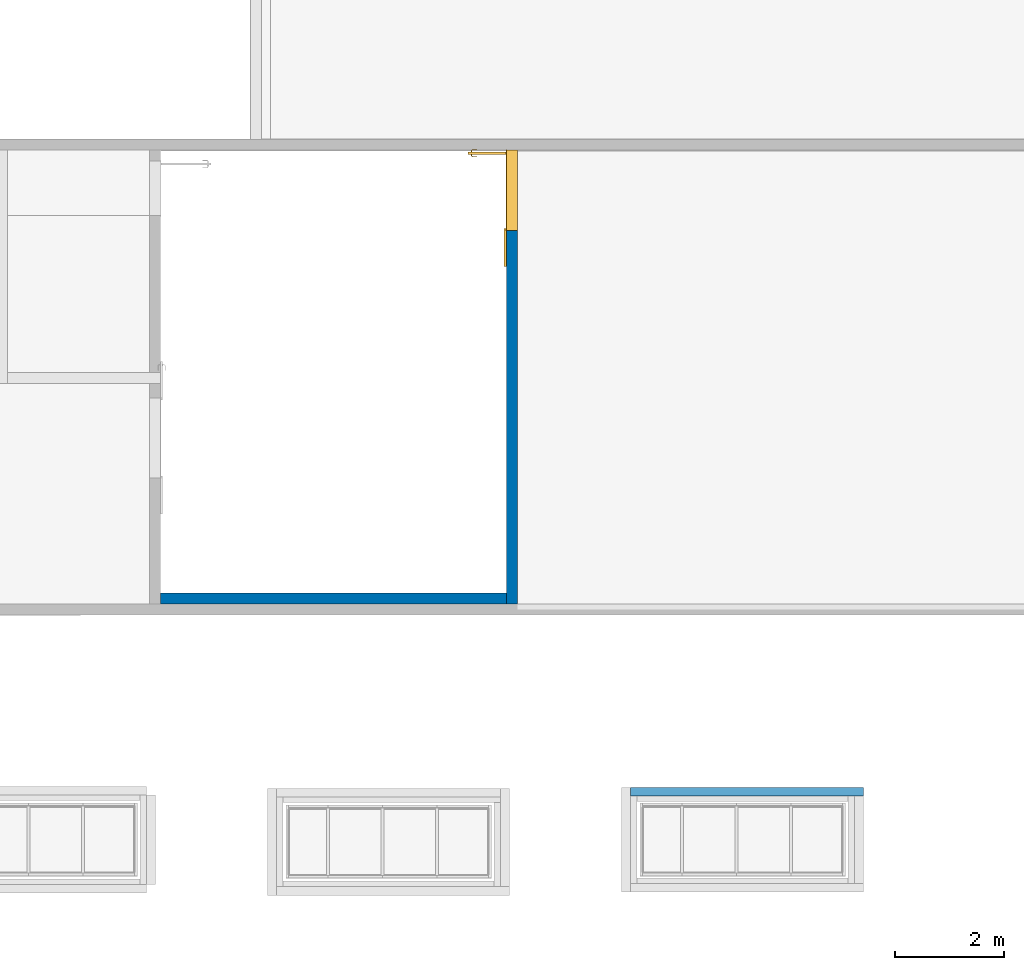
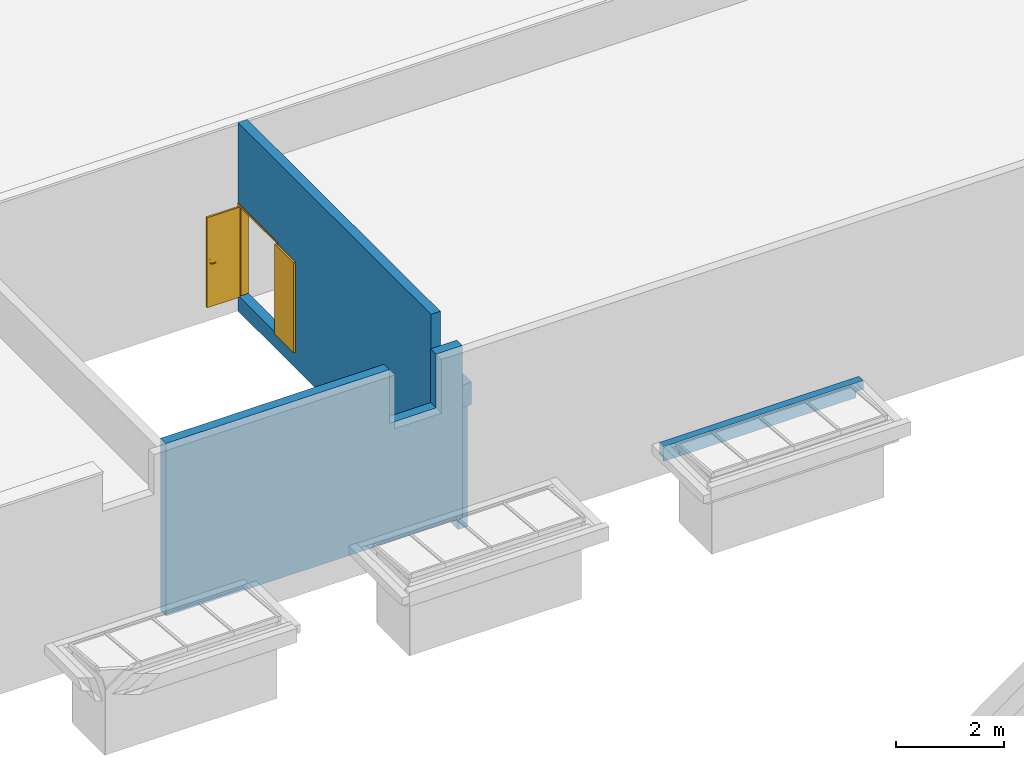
# One storey, part 91 of 106: 3 walls, 1 door, 1 opening.
"""IFC2X3 building model written with IfcOpenShell, lengths in centimetres."""

from ifc_helpers import new_model, entity, si_unit, converted_unit, derived_unit, direction, frame, frame_2d, origin, place, context, subcontext, project, spatial, rectangle, extrude, faceted_brep, source, transform, mapped, material, material_list, layer, layer_set, type_object, type_shapes, element, fill, save


model = new_model("IFC2X3")

# Units and contexts
model_context = context("Model", 3, precision=0.001, world=origin(), true_north=direction((6.12303176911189e-17, 1.0)))
body_context = subcontext(model_context, "Body", "Model", "MODEL_VIEW")
ifc_project = project(units=[si_unit("LENGTHUNIT", "METRE", prefix="CENTI"), si_unit("AREAUNIT", "SQUARE_METRE"), si_unit("VOLUMEUNIT", "CUBIC_METRE"), converted_unit("PLANEANGLEUNIT", "DEGREE", entity("IfcRatioMeasure", 0.0174532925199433), si_unit("PLANEANGLEUNIT", "RADIAN"), dimensions=[0, 0, 0, 0, 0, 0, 0]), si_unit("MASSUNIT", "GRAM", prefix="KILO"), derived_unit("MASSDENSITYUNIT", [(si_unit("MASSUNIT", "GRAM", prefix="KILO"), 1), (si_unit("LENGTHUNIT", "METRE"), -3)]), si_unit("TIMEUNIT", "SECOND"), si_unit("FREQUENCYUNIT", "HERTZ"), si_unit("THERMODYNAMICTEMPERATUREUNIT", "DEGREE_CELSIUS"), derived_unit("THERMALTRANSMITTANCEUNIT", [(si_unit("MASSUNIT", "GRAM", prefix="KILO"), 1), (si_unit("THERMODYNAMICTEMPERATUREUNIT", "KELVIN"), -1), (si_unit("TIMEUNIT", "SECOND"), -3)]), derived_unit("VOLUMETRICFLOWRATEUNIT", [(si_unit("LENGTHUNIT", "METRE"), 3), (si_unit("TIMEUNIT", "SECOND"), -1)]), si_unit("ELECTRICCURRENTUNIT", "AMPERE"), si_unit("ELECTRICVOLTAGEUNIT", "VOLT"), si_unit("POWERUNIT", "WATT"), si_unit("FORCEUNIT", "NEWTON", prefix="KILO"), si_unit("ILLUMINANCEUNIT", "LUX"), si_unit("LUMINOUSFLUXUNIT", "LUMEN"), si_unit("LUMINOUSINTENSITYUNIT", "CANDELA"), derived_unit("USERDEFINED", [(si_unit("MASSUNIT", "GRAM", prefix="KILO"), -1), (si_unit("LENGTHUNIT", "METRE"), -2), (si_unit("TIMEUNIT", "SECOND"), 3), (si_unit("LUMINOUSFLUXUNIT", "LUMEN"), 1)]), derived_unit("LINEARVELOCITYUNIT", [(si_unit("LENGTHUNIT", "METRE"), 1), (si_unit("TIMEUNIT", "SECOND"), -1)]), si_unit("PRESSUREUNIT", "PASCAL"), derived_unit("USERDEFINED", [(si_unit("LENGTHUNIT", "METRE"), -2), (si_unit("MASSUNIT", "GRAM", prefix="KILO"), 1), (si_unit("TIMEUNIT", "SECOND"), -2)])], contexts=[model_context])

# Site, building, storey
site_placement = place(None, frame((-2781.94577612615, 7442.24238424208, 0.0)))
site = spatial("IfcSite", under=ifc_project, at=site_placement, Name="Default", CompositionType="ELEMENT")
building_placement = place(site_placement, origin())
building = spatial("IfcBuilding", under=site, at=building_placement, CompositionType="ELEMENT")
storey_placement = place(building_placement, frame((0.0, 0.0, 422.0)))
storey = spatial("IfcBuildingStorey", under=building, at=storey_placement, Name="Toiture - Cuisine", CompositionType="ELEMENT", Elevation=421.999999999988)

# Wall
ifc_material_1 = material(Name="Aluminium bardage")
ifc_layer_1 = layer(ifc_material_1, 0.5)
ifc_material_2 = material(Name="01 - Lame d'air")
ifc_layer_2 = layer(ifc_material_2, 1.5)
ifc_material_3 = material(Name="00 - Isolant")
ifc_layer_3 = layer(ifc_material_3, 18.0)
ifc_layer_set_1 = layer_set([ifc_layer_1, ifc_layer_2, ifc_layer_3], Name="Mur de base:04 - Parement - ITE 18cm + vide 2cm")
wall_type_1 = type_object("IfcWallType", Name="Mur de base:04 - Parement - ITE 18cm + vide 2cm", PredefinedType="STANDARD", material=ifc_layer_set_1)
wall_1_placement = place(building_placement, frame((-11066.882807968, -4195.50027342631, 349.0)))
element("IfcWall", 1, at=wall_1_placement, inside=storey, type_object=wall_type_1, Name="Mur de base:04 - Parement - ITE 18cm + vide 2cm", ObjectType="Mur de base:04 - Parement - ITE 18cm + vide 2cm", context=body_context, shape_type="Brep", body=[
    faceted_brep([(634.91806986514, -10.0, 0.0), (634.91806986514, -10.0, 250.0), (634.91806986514, -10.0, 300.996428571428), (634.91806986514, -10.0, 391.0), (578.558069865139, -10.0, 391.0), (578.558069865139, -10.0, 269.220000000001), (478.55806986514, -10.0, 269.220000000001), (478.55806986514, -10.0, 391.0), (0.0, -10.0, 391.0), (0.0, -10.0, 0.0), (634.91806986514, 10.0, 0.0), (0.0, 10.0, 0.0), (0.0, 10.0, 391.0), (478.558069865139, 10.0, 391.0), (478.558069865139, 10.0, 269.220000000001), (578.558069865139, 10.0, 269.220000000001), (578.558069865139, 10.0, 391.0), (634.91806986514, 10.0, 391.0)], [[[0, 1, 2, 3, 4, 5, 6, 7, 8, 9]], [[10, 11, 12, 13, 14, 15, 16, 17]], [[0, 9, 11, 10]], [[4, 3, 17, 16]], [[5, 4, 16, 15]], [[6, 5, 15, 14]], [[7, 6, 14, 13]], [[8, 7, 13, 12]], [[3, 2, 1, 0, 10, 17]], [[9, 8, 12, 11]]]),
])

# Wall, opening, door
ifc_material_4 = material(Name="01 - Maçonnerie")
ifc_layer_4 = layer(ifc_material_4, 20.0)
ifc_layer_set_2 = layer_set([ifc_layer_4], Name="Mur de base:04 - Structure - béton - 20cm")
wall_type_2 = type_object("IfcWallType", Name="Mur de base:04 - Structure - béton - 20cm", PredefinedType="STANDARD", material=ifc_layer_set_2)
wall_2_placement = place(building_placement, frame((-10421.9647381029, -4205.50027342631, 313.0), z_axis=(0.0, 0.0, 1.0), x_axis=(0.0, 1.0, 0.0)))
wall_2 = element("IfcWall", 2, at=wall_2_placement, inside=storey, type_object=wall_type_2, Name="Mur de base:04 - Structure - béton - 20cm", ObjectType="Mur de base:04 - Structure - béton - 20cm", context=body_context, shape_type="Brep", body=[
    faceted_brep([(16.0, -10.0, 0.0), (832.978466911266, -10.0, 0.0), (832.978466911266, -10.0, 21.0), (832.978466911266, -10.0, 36.0), (685.978466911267, -10.0, 36.0), (685.978466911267, -10.0, 243.499999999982), (832.978466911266, -10.0, 243.499999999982), (832.978466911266, -10.0, 286.0), (832.978466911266, -10.0, 322.0), (832.978466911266, -10.0, 427.0), (116.0, -10.0, 427.0), (116.0, -10.0, 336.996428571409), (0.0, -10.0, 336.996428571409), (0.0, -10.0, 286.0), (16.0, -10.0, 286.0), (16.0, -10.0, 21.0), (832.978466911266, 10.0, 0.0), (16.0, 10.0, 0.0), (16.0, 10.0, 20.8628346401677), (16.0, 10.0, 286.0), (0.0, 10.0, 286.0), (0.0, 10.0, 336.996428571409), (116.0, 10.0, 336.996428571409), (116.0, 10.0, 427.0), (832.978466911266, 10.0, 427.0), (832.978466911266, 10.0, 243.499999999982), (685.978466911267, 10.0, 243.499999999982), (685.978466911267, 10.0, 36.0), (832.978466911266, 10.0, 36.0)], [[[0, 1, 2, 3, 4, 5, 6, 7, 8, 9, 10, 11, 12, 13, 14, 15]], [[16, 17, 18, 19, 20, 21, 22, 23, 24, 25, 26, 27, 28]], [[24, 9, 8, 7, 6, 25]], [[1, 0, 17, 16]], [[10, 9, 24, 23]], [[11, 10, 23, 22]], [[12, 11, 22, 21]], [[5, 26, 25, 6]], [[26, 5, 4, 27]], [[27, 4, 3, 28]], [[20, 19, 14, 13]], [[17, 0, 15, 14, 19, 18]], [[12, 21, 20, 13]], [[1, 16, 28, 3, 2]]]),
])
opening_placement = place(wall_2_placement, frame((685.978466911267, -10.0, 36.0)))
opening = element("IfcOpeningElement", 3, at=opening_placement, cuts=wall_2, Name="Int. Double:PP (1.40m x 2.04m):1", ObjectType="Opening", context=body_context, shape_type="SweptSolid", body=[
    extrude(rectangle(XDim=207.500000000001, YDim=147.0, at=frame_2d((103.750000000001, 73.5000000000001), x_axis=(1.0, 0.0))), frame((0.0, 0.0, 0.0), z_axis=(0.0, 1.0, 0.0), x_axis=(0.0, 0.0, 1.0)), (0.0, 0.0, 1.0), 20.0),
])
ifc_material_5 = material(Name="Bois - Panneau de porte")
ifc_material_6 = material(Name="Finition Peinture - Blanc satiné")
ifc_material_7 = material(Name="Bois - Cadre de porte")
ifc_material_list_1 = material_list([ifc_material_5, ifc_material_6, ifc_material_7])
ifc_material_list_2 = material_list([ifc_material_5, ifc_material_6, ifc_material_7])
door_style = type_object("IfcDoorStyle", Name="PP (1.40m x 2.04m)", ConstructionType="NOTDEFINED", OperationType="DOUBLE_DOOR_SINGLE_SWING", ParameterTakesPrecedence=False, Sizeable=False, material=ifc_material_list_2)
shared_shape = source(origin(), body_context, "Body", "Brep", [
    faceted_brep([(220.500000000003, -4.0, 204.0), (150.500000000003, -4.0, 204.0), (150.500000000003, -4.0, 0.0), (220.500000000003, -4.0, 0.0), (220.500000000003, 0.0, 204.0), (220.500000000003, 0.0, 0.0), (150.500000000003, 0.0, 0.0), (150.500000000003, 0.0, 204.0)], [[[0, 1, 2, 3]], [[4, 5, 6, 7]], [[1, 0, 4, 7]], [[2, 1, 7, 6]], [[3, 2, 6, 5]], [[0, 3, 5, 4]]]),
    faceted_brep([(10.0, -66.0, 87.0), (10.0, -66.0, 108.0), (10.0, -65.0352761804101, 108.399601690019), (10.0, -64.0, 108.535898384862), (10.0, -62.9647238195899, 108.399601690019), (10.0, -62.0, 108.0), (10.0, -62.0, 87.0), (10.0, -62.9647238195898, 86.6003983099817), (10.0, -64.0, 86.464101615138), (10.0, -65.03527618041, 86.6003983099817), (10.5000000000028, -66.0, 108.0), (10.5000000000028, -66.0, 87.0), (10.5000000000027, -65.03527618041, 86.6003983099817), (10.5000000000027, -64.0, 86.464101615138), (10.5000000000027, -62.9647238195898, 86.6003983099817), (10.5000000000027, -62.0, 87.0), (10.5000000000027, -62.0, 108.0), (10.5000000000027, -62.9647238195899, 108.399601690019), (10.5000000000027, -64.0, 108.535898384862), (10.5000000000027, -65.0352761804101, 108.399601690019)], [[[0, 1, 2, 3, 4, 5, 6, 7, 8, 9]], [[10, 11, 12, 13, 14, 15, 16, 17, 18, 19]], [[9, 12, 11, 0]], [[8, 13, 12, 9]], [[7, 14, 13, 8]], [[7, 6, 15, 14]], [[15, 6, 5, 16]], [[4, 17, 16, 5]], [[3, 18, 17, 4]], [[2, 19, 18, 3]], [[2, 1, 10, 19]], [[11, 10, 1, 0]]]),
    faceted_brep([(14.5000000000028, -66.0, 87.0), (14.5000000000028, -66.0, 108.0), (14.5000000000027, -65.0352761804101, 108.399601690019), (14.5000000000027, -64.0, 108.535898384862), (14.5000000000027, -62.96472381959, 108.399601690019), (14.5000000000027, -62.0, 108.0), (14.5000000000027, -62.0, 87.0), (14.5000000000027, -62.9647238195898, 86.6003983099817), (14.5000000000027, -64.0, 86.464101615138), (14.5000000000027, -65.03527618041, 86.6003983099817), (15.0, -64.0, 108.535898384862), (15.0, -65.0352761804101, 108.399601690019), (15.0, -66.0, 108.0), (15.0, -66.0, 87.0), (15.0, -65.03527618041, 86.6003983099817), (15.0, -64.0, 86.464101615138), (15.0, -62.9647238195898, 86.6003983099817), (15.0, -62.0, 87.0), (15.0, -62.0, 108.0), (15.0, -62.96472381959, 108.399601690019)], [[[0, 1, 2, 3, 4, 5, 6, 7, 8, 9]], [[10, 11, 12, 13, 14, 15, 16, 17, 18, 19]], [[4, 19, 18, 5]], [[3, 10, 19, 4]], [[2, 11, 10, 3]], [[2, 1, 12, 11]], [[13, 12, 1, 0]], [[9, 14, 13, 0]], [[8, 15, 14, 9]], [[7, 16, 15, 8]], [[7, 6, 17, 16]], [[17, 6, 5, 18]]]),
    faceted_brep([(10.0, -63.7974701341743, 100.778044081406), (10.0, -64.2025298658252, 100.778044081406), (10.0, -64.6000000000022, 100.699999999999), (10.0, -64.6000000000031, 99.2999999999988), (10.0, -64.202529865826, 99.221955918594), (10.0, -63.7974701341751, 99.2219559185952), (10.0, -63.3999999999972, 99.3000000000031), (10.0, -63.3999999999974, 100.7), (7.39954245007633, -64.2025298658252, 100.778044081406), (7.23490492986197, -64.6000000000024, 100.7), (7.56732368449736, -63.7974701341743, 100.778044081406), (6.19971379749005, -62.4298602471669, 100.778044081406), (5.79465406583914, -62.5976414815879, 100.778044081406), (7.7319612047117, -63.3999999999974, 100.7), (7.73196120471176, -63.3999999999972, 99.3000000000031), (7.56732368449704, -63.7974701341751, 99.2219559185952), (7.39954245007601, -64.202529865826, 99.221955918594), (5.79465406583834, -62.5976414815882, 99.221955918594), (6.19971379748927, -62.4298602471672, 99.2219559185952), (7.23490492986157, -64.6000000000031, 99.2999999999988), (5.39718393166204, -62.7622790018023, 100.7), (6.59718393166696, -62.2652227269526, 100.7), (6.59718393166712, -62.2652227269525, 99.3000000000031), (5.3971839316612, -62.7622790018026, 99.2999999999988), (5.39718393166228, -53.9981359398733, 100.7), (5.79465406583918, -53.9981359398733, 100.778044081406), (6.19971379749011, -53.9981359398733, 100.778044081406), (6.59718393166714, -53.9981359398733, 100.699999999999), (6.59718393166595, -53.9981359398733, 99.3000000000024), (6.19971379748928, -53.9981359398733, 99.2219559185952), (5.79465406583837, -53.9981359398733, 99.221955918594), (5.39718393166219, -53.9981359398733, 99.2999999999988), (5.99718393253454, -58.2139980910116, 100.78786867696), (5.39718393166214, -58.7692302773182, 100.7), (6.59718393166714, -58.1316793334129, 100.7), (6.59718393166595, -58.1316793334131, 99.3000000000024), (5.99718392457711, -58.2139981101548, 99.2121313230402), (5.3971839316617, -58.7692310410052, 99.2999999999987)], [[[0, 1, 2, 3, 4, 5, 6, 7]], [[2, 1, 8, 9]], [[1, 0, 10, 11, 12, 8]], [[0, 7, 13, 10]], [[14, 13, 7, 6]], [[5, 15, 14, 6]], [[5, 4, 16, 17, 18, 15]], [[3, 19, 16, 4]], [[9, 19, 3, 2]], [[9, 8, 12, 20]], [[10, 13, 21, 11]], [[22, 21, 13, 14]], [[14, 15, 18, 22]], [[16, 19, 23, 17]], [[20, 23, 19, 9]], [[24, 25, 26, 27, 28, 29, 30, 31]], [[32, 25, 33]], [[33, 25, 24]], [[33, 20, 12]], [[11, 34, 32]], [[34, 11, 21]], [[27, 26, 34]], [[32, 26, 25]], [[32, 34, 26]], [[32, 33, 12]], [[11, 32, 12]], [[21, 22, 35, 28, 27, 34]], [[36, 29, 35]], [[30, 36, 37]], [[18, 35, 22]], [[29, 28, 35]], [[30, 37, 31]], [[37, 17, 23]], [[36, 17, 37]], [[36, 18, 17]], [[36, 35, 18]], [[29, 36, 30]], [[23, 20, 33, 24, 31, 37]]]),
    faceted_brep([(15.0, -63.7974701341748, 99.2219559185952), (15.0, -64.2025298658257, 99.221955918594), (15.0, -64.6000000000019, 99.2999999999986), (15.0, -64.6000000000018, 100.7), (15.0, -64.2025298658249, 100.778044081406), (15.0, -63.7974701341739, 100.778044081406), (15.0, -63.3999999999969, 100.7), (15.0, -63.3999999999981, 99.3000000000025), (17.248520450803, -63.3999999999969, 100.7), (17.2485204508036, -63.3999999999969, 99.3000000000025), (17.4131579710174, -63.7974701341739, 100.778044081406), (17.5809392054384, -64.2025298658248, 100.778044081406), (19.1995784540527, -62.5838906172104, 100.778044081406), (18.7945187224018, -62.4161093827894, 100.778044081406), (17.7455767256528, -64.6000000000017, 100.7), (17.7455767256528, -64.6000000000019, 99.2999999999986), (17.5809392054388, -64.2025298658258, 99.221955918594), (17.4131579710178, -63.7974701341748, 99.2219559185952), (18.7945187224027, -62.4161093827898, 99.2219559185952), (19.1995784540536, -62.5838906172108, 99.221955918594), (18.3970485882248, -62.2514718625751, 100.7), (18.3970485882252, -62.2514718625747, 99.3000000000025), (19.5970485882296, -62.7485281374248, 100.7), (19.5970485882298, -62.7485281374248, 99.2999999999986), (18.7945187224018, -53.9954216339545, 100.778044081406), (19.1995784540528, -53.9954216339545, 100.778044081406), (19.5970485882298, -53.9954216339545, 100.7), (19.5970485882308, -53.9954216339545, 99.2999999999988), (19.1995784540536, -53.9954216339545, 99.221955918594), (18.7945187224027, -53.9954216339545, 99.2219559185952), (18.3970485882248, -53.9954216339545, 99.3000000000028), (18.3970485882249, -53.9954216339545, 100.7), (18.3970485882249, -58.1234467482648, 100.7), (18.3970485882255, -58.1234479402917, 99.3000000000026), (18.997048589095, -58.2057655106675, 100.78786867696), (19.5970485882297, -58.7554794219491, 100.7), (19.5970485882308, -58.75547956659, 99.2999999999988), (18.9970485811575, -58.2057654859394, 99.2121313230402)], [[[0, 1, 2, 3, 4, 5, 6, 7]], [[8, 9, 7, 6]], [[5, 10, 8, 6]], [[5, 4, 11, 12, 13, 10]], [[3, 14, 11, 4]], [[14, 3, 2, 15]], [[2, 1, 16, 15]], [[1, 0, 17, 18, 19, 16]], [[0, 7, 9, 17]], [[20, 21, 9, 8]], [[8, 10, 13, 20]], [[14, 22, 12, 11]], [[23, 22, 14, 15]], [[15, 16, 19, 23]], [[17, 9, 21, 18]], [[24, 25, 26, 27, 28, 29, 30, 31]], [[21, 20, 32, 31, 30, 33]], [[34, 24, 32]], [[25, 34, 35]], [[13, 32, 20]], [[24, 31, 32]], [[25, 35, 26]], [[35, 12, 22]], [[34, 12, 35]], [[34, 13, 12]], [[34, 32, 13]], [[24, 34, 25]], [[22, 23, 36, 27, 26, 35]], [[37, 28, 36]], [[36, 28, 27]], [[36, 23, 19]], [[18, 33, 37]], [[33, 18, 21]], [[30, 29, 33]], [[37, 29, 28]], [[37, 33, 29]], [[37, 36, 19]], [[18, 37, 19]]]),
    faceted_brep([(14.5000000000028, -70.0, 204.0), (14.5000000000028, -70.0, 0.0), (14.5000000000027, 0.0, 0.0), (14.5000000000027, 0.0, 204.0), (10.5000000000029, -70.0, 204.0), (10.5000000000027, 0.0, 204.0), (10.5000000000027, 0.0, 0.0), (10.5000000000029, -70.0, 0.0)], [[[0, 1, 2, 3]], [[4, 5, 6, 7]], [[3, 5, 4, 0]], [[2, 6, 5, 3]], [[1, 7, 6, 2]], [[0, 4, 7, 1]]]),
    faceted_brep([(154.0, 0.0, 0.0), (150.500000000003, 0.0, 0.0), (150.500000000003, 4.0, 0.0), (149.0, 4.0, 0.0), (149.0, 20.0, 0.0), (154.0, 20.0, 0.0), (154.0, 20.0, 207.500000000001), (154.0, 0.0, 207.500000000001), (149.0, 20.0, 202.5), (12.0, 20.0, 202.5), (12.0, 20.0, 0.0), (7.0, 20.0, 0.0), (7.0, 20.0, 207.500000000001), (149.0, 4.0, 202.5), (150.500000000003, 4.0, 204.0), (10.5000000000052, 4.0, 204.0), (10.5000000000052, 4.0, 0.0), (12.0, 4.0, 0.0), (12.0, 4.0, 202.5), (150.500000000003, 0.0, 204.0), (7.0, 0.0, 207.500000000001), (7.0, 0.0, 0.0), (10.5000000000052, 0.0, 0.0), (10.5000000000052, 0.0, 204.0)], [[[0, 1, 2, 3, 4, 5]], [[5, 6, 7, 0]], [[4, 8, 9, 10, 11, 12, 6, 5]], [[3, 13, 8, 4]], [[2, 14, 15, 16, 17, 18, 13, 3]], [[1, 19, 14, 2]], [[0, 7, 20, 21, 22, 23, 19, 1]], [[12, 11, 21, 20]], [[21, 11, 10, 17, 16, 22]], [[18, 17, 10, 9]], [[23, 22, 16, 15]], [[6, 12, 20, 7]], [[13, 18, 9, 8]], [[19, 23, 15, 14]]]),
    faceted_brep([(152.500000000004, 20.0, 0.0), (152.500000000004, 20.5000000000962, 0.0), (155.500000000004, 20.5000000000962, 0.0), (155.500000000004, 20.0, 0.0), (155.500000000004, 20.0, 209.0), (5.50000000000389, 20.0, 209.0), (5.50000000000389, 20.0, 0.0), (8.50000000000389, 20.0, 0.0), (8.50000000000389, 20.0, 206.0), (152.500000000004, 20.0, 206.0), (155.500000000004, 20.5000000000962, 209.0), (152.500000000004, 20.5000000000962, 206.0), (8.50000000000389, 20.5000000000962, 206.0), (8.50000000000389, 20.5000000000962, 0.0), (5.50000000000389, 20.5000000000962, 0.0), (5.50000000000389, 20.5000000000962, 209.0)], [[[0, 1, 2, 3]], [[3, 4, 5, 6, 7, 8, 9, 0]], [[2, 10, 4, 3]], [[1, 11, 12, 13, 14, 15, 10, 2]], [[0, 9, 11, 1]], [[8, 7, 13, 12]], [[7, 6, 14, 13]], [[15, 14, 6, 5]], [[10, 15, 5, 4]], [[9, 8, 12, 11]]]),
    faceted_brep([(155.500000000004, -0.500000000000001, 0.0), (155.500000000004, -0.500000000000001, 209.0), (5.50000000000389, -0.500000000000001, 209.0), (5.50000000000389, -0.500000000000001, 0.0), (8.50000000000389, -0.500000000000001, 0.0), (8.50000000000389, -0.500000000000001, 206.0), (152.500000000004, -0.500000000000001, 206.0), (152.500000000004, -0.500000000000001, 0.0), (155.500000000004, 0.0, 0.0), (155.500000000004, 0.0, 209.0), (152.500000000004, 0.0, 0.0), (152.500000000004, 0.0, 206.0), (8.50000000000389, 0.0, 206.0), (8.50000000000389, 0.0, 0.0), (5.50000000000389, 0.0, 0.0), (5.50000000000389, 0.0, 209.0)], [[[0, 1, 2, 3, 4, 5, 6, 7]], [[8, 9, 1, 0]], [[10, 11, 12, 13, 14, 15, 9, 8]], [[7, 6, 11, 10]], [[5, 4, 13, 12]], [[15, 14, 3, 2]], [[9, 15, 2, 1]], [[6, 5, 12, 11]], [[4, 3, 14, 13]], [[7, 10, 8, 0]]]),
])
type_shapes(door_style, [shared_shape])
door_placement = place(opening_placement, frame((154.0, 20.0, 0.0), z_axis=(0.0, 0.0, 1.0), x_axis=(-1.0, 0.0, 0.0)))
door = element("IfcDoor", 4, at=door_placement, inside=storey, type_object=door_style, material=ifc_material_list_1, Name="Int. Double:PP (1.40m x 2.04m)", ObjectType="Int. Double:PP (1.40m x 2.04m)", OverallHeight=207.500000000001, OverallWidth=147.0, context=body_context, shape_type="MappedRepresentation", body=[
    mapped(shared_shape, transform((0.0, 0.0, 0.0), scale=1.0)),
])
fill(opening, door)

# Wall
ifc_layer_5 = layer(ifc_material_3, 16.0)
ifc_layer_set_3 = layer_set([ifc_layer_5], Name="Mur de base:04 - retour isolation acrotère - ITE 16cm")
wall_type_3 = type_object("IfcWallType", Name="Mur de base:04 - retour isolation acrotère - ITE 16cm", PredefinedType="STANDARD", material=ifc_layer_set_3)
wall_3_placement = place(building_placement, frame((-9776.35057462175, -4550.48097835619, 611.404543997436), z_axis=(0.0, 0.0, 1.0), x_axis=(-1.0, 0.0, 0.0)))
element("IfcWall", 5, at=wall_3_placement, inside=storey, type_object=wall_type_3, Name="Mur de base:04 - retour isolation acrotère - ITE 16cm", ObjectType="Mur de base:04 - retour isolation acrotère - ITE 16cm", context=body_context, shape_type="Brep", body=[
    faceted_brep([(428.0, -8.0, 33.7171092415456), (0.0, -8.0, 33.7171092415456), (0.0, -8.0, 13.9890513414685), (16.0, -8.0, 13.9890513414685), (16.0, -8.0, 6.52808786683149), (428.0, -8.0, 6.52808786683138), (428.0, -8.0, 14.2254423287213), (428.0, 8.0, 0.0), (16.0, 8.0, 0.0), (16.0, 8.0, 7.36661233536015), (16.0, 8.0, 13.9890513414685), (0.0, 8.0, 13.9890513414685), (0.0, 8.0, 33.7171092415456), (428.0, 8.0, 33.7171092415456), (428.0, 8.0, 7.36661233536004), (428.0, 5.99820928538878, 0.0), (16.0, 5.99820928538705, 0.0), (428.0, 5.99820928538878, 7.26170292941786), (16.0, 5.99820928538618, 7.26170292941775)], [[[0, 1, 2, 3, 4, 5, 6]], [[7, 8, 9, 10, 11, 12, 13, 14]], [[8, 7, 15, 16]], [[1, 0, 13, 12]], [[13, 0, 6, 5, 17, 15, 7, 14]], [[18, 17, 5, 4]], [[17, 18, 16, 15]], [[11, 10, 3, 2]], [[3, 10, 9, 8, 16, 18, 4]], [[2, 1, 12, 11]]]),
])

save(model, "model.ifc")
